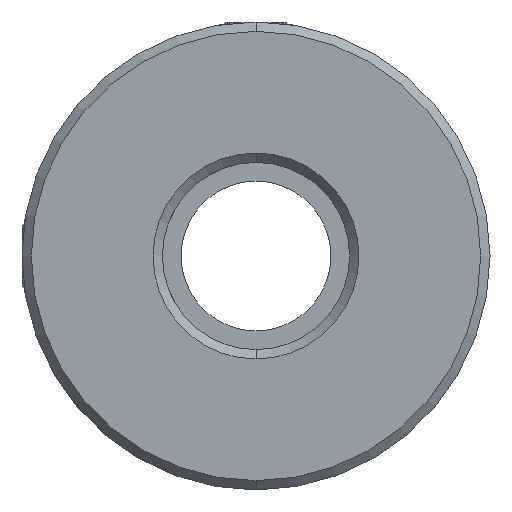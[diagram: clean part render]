
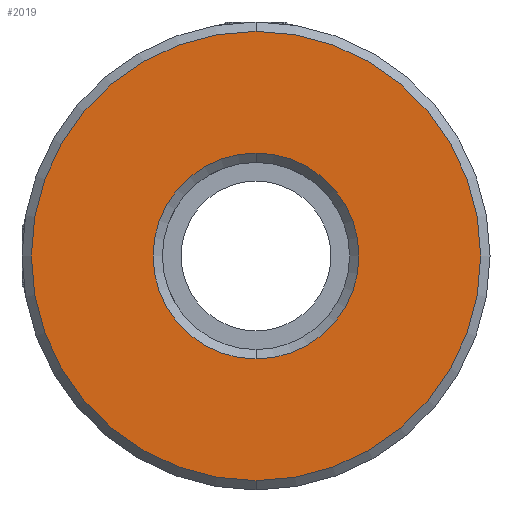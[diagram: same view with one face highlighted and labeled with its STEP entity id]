
A CAD part, front view. The second image highlights one B-rep face of the part: STEP entity #2019.
In plain terms, the highlighted planar face has unit normal (0, -1, 0).
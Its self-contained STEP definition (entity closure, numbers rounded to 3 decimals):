
#90 = VERTEX_POINT ( 'NONE', #2621 ) ;
#258 = EDGE_CURVE ( 'NONE', #1366, #2193, #1392, .T. ) ;
#264 = PLANE ( 'NONE',  #1860 ) ;
#533 = EDGE_CURVE ( 'NONE', #2193, #1366, #2117, .T. ) ;
#575 = DIRECTION ( 'NONE',  ( 0., 0., 1. ) ) ;
#815 = FACE_BOUND ( 'NONE', #3576, .T. ) ;
#864 = DIRECTION ( 'NONE',  ( 0., 0., 1. ) ) ;
#897 = EDGE_CURVE ( 'NONE', #1835, #90, #3246, .T. ) ;
#1034 = ORIENTED_EDGE ( 'NONE', *, *, #897, .T. ) ;
#1349 = EDGE_CURVE ( 'NONE', #90, #1835, #1611, .T. ) ;
#1366 = VERTEX_POINT ( 'NONE', #1737 ) ;
#1392 = CIRCLE ( 'NONE', #3515, 5.5 ) ;
#1540 = AXIS2_PLACEMENT_3D ( 'NONE', #3338, #3159, #575 ) ;
#1611 = CIRCLE ( 'NONE', #3190, 12. ) ;
#1707 = ORIENTED_EDGE ( 'NONE', *, *, #533, .T. ) ;
#1717 = DIRECTION ( 'NONE',  ( 0., 1., 0. ) ) ;
#1737 = CARTESIAN_POINT ( 'NONE',  ( -10.188, -0.277, 5.546 ) ) ;
#1835 = VERTEX_POINT ( 'NONE', #2557 ) ;
#1860 = AXIS2_PLACEMENT_3D ( 'NONE', #2259, #1717, #864 ) ;
#1878 = CARTESIAN_POINT ( 'NONE',  ( -10.188, -0.277, 0.046 ) ) ;
#2008 = CARTESIAN_POINT ( 'NONE',  ( -10.188, -0.277, -5.454 ) ) ;
#2019 = ADVANCED_FACE ( 'NONE', ( #3440, #815 ), #264, .F. ) ;
#2040 = CARTESIAN_POINT ( 'NONE',  ( -10.188, -0.277, 0.046 ) ) ;
#2098 = ORIENTED_EDGE ( 'NONE', *, *, #258, .T. ) ;
#2117 = CIRCLE ( 'NONE', #2482, 5.5 ) ;
#2193 = VERTEX_POINT ( 'NONE', #2008 ) ;
#2259 = CARTESIAN_POINT ( 'NONE',  ( -10.188, -0.277, 0.046 ) ) ;
#2284 = DIRECTION ( 'NONE',  ( 0., 1., 0. ) ) ;
#2317 = DIRECTION ( 'NONE',  ( 0., -1., 0. ) ) ;
#2373 = CARTESIAN_POINT ( 'NONE',  ( -10.188, -0.277, 0.046 ) ) ;
#2482 = AXIS2_PLACEMENT_3D ( 'NONE', #2040, #2284, #3715 ) ;
#2557 = CARTESIAN_POINT ( 'NONE',  ( -10.188, -0.277, 12.046 ) ) ;
#2621 = CARTESIAN_POINT ( 'NONE',  ( -10.188, -0.277, -11.954 ) ) ;
#2757 = EDGE_LOOP ( 'NONE', ( #1034, #3033 ) ) ;
#2994 = DIRECTION ( 'NONE',  ( 0., 0., 1. ) ) ;
#3033 = ORIENTED_EDGE ( 'NONE', *, *, #1349, .T. ) ;
#3159 = DIRECTION ( 'NONE',  ( 0., -1., 0. ) ) ;
#3190 = AXIS2_PLACEMENT_3D ( 'NONE', #2373, #2317, #3476 ) ;
#3246 = CIRCLE ( 'NONE', #1540, 12. ) ;
#3268 = DIRECTION ( 'NONE',  ( 0., 1., 0. ) ) ;
#3338 = CARTESIAN_POINT ( 'NONE',  ( -10.188, -0.277, 0.046 ) ) ;
#3440 = FACE_OUTER_BOUND ( 'NONE', #2757, .T. ) ;
#3476 = DIRECTION ( 'NONE',  ( 0., 0., 1. ) ) ;
#3515 = AXIS2_PLACEMENT_3D ( 'NONE', #1878, #3268, #2994 ) ;
#3576 = EDGE_LOOP ( 'NONE', ( #1707, #2098 ) ) ;
#3715 = DIRECTION ( 'NONE',  ( 0., 0., 1. ) ) ;
